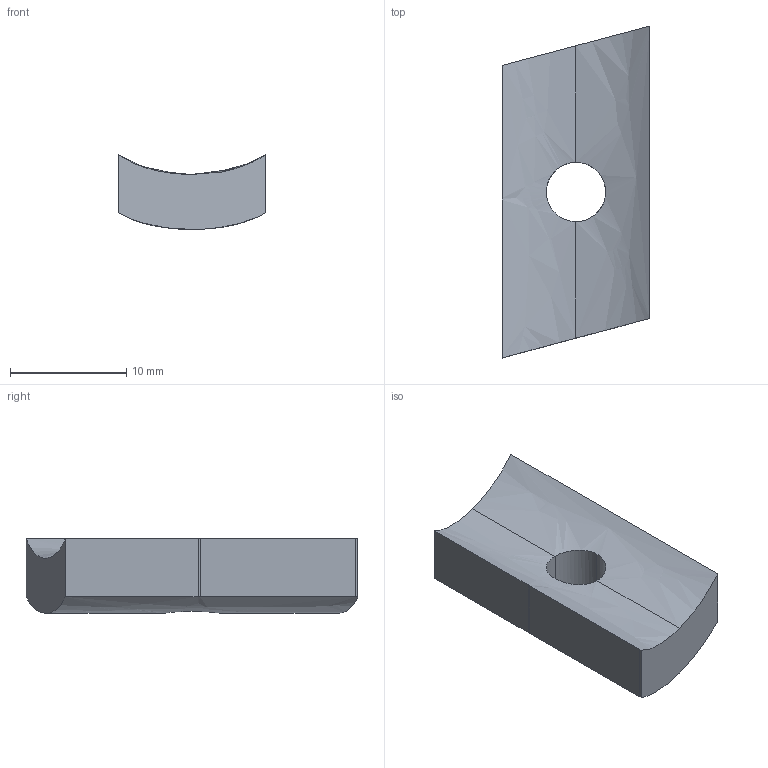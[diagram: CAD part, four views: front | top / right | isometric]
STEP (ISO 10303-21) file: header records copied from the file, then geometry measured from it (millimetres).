
FILE_DESCRIPTION(('TurboCAD Mac Pro'),'Build 980');
FILE_NAME('A3016-1032.stp',' ',(''),(''),'ACIS Interop','IMSI','TurboCAD Mac Pro BY IMSI, INCORPORATED');
FILE_SCHEMA(('automotive_design'));
Length unit declared in the file: inch
Products named in the file (1): 1
Bounding box: 12.71 x 28.56 x 6.44 mm (x, y, z)
Volume: 1440.6 mm3; surface area: 1080.3 mm2
Topology: 1 solids, 1 shells, 15 faces, 45 edges, 30 vertices
Faces by surface type: bspline 9, plane 6
Entity records: 777 total; most frequent: CARTESIAN_POINT 292, ORIENTED_EDGE 90, EDGE_CURVE 45, DIRECTION 37, VERTEX_POINT 30, LINE 23, VECTOR 23, B_SPLINE_CURVE_WITH_KNOTS 22
